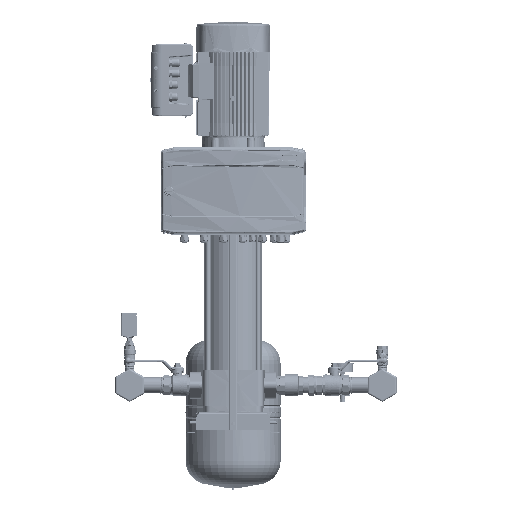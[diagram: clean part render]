
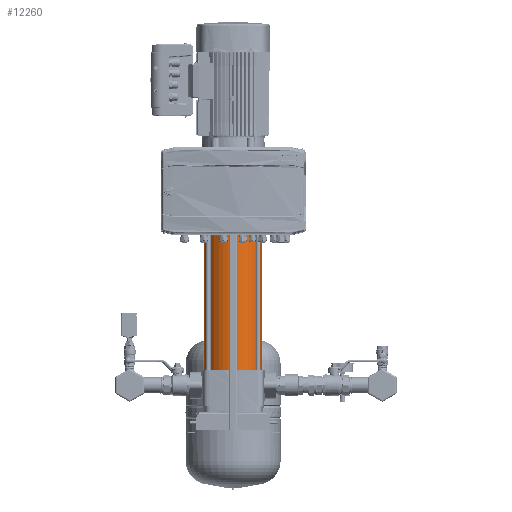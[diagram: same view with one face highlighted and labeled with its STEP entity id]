
A CAD part, left-side view. The second image highlights one B-rep face of the part: STEP entity #12260.
In plain terms, the highlighted cylindrical face has radius 85.35 mm (diameter 170.7 mm), a partial arc.
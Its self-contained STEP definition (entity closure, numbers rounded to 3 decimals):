
#12190=CARTESIAN_POINT('Axis2P3D Location',(434.,0.,0.)) ;
#12194=CARTESIAN_POINT('Vertex',(434.,-85.35,0.)) ;
#12196=CARTESIAN_POINT('Vertex',(434.,85.35,0.)) ;
#12217=CARTESIAN_POINT('Axis2P3D Location',(0.,0.,0.)) ;
#12222=CARTESIAN_POINT('Line Origine',(0.,-85.35,0.)) ;
#12226=CARTESIAN_POINT('Vertex',(0.,-85.35,0.)) ;
#12233=CARTESIAN_POINT('Vertex',(0.,85.35,0.)) ;
#12236=CARTESIAN_POINT('Line Origine',(0.,85.35,0.)) ;
#12249=CARTESIAN_POINT('Axis2P3D Location',(0.,0.,0.)) ;
#12224=VECTOR('Line Direction',#12223,1.) ;
#12238=VECTOR('Line Direction',#12237,1.) ;
#12191=DIRECTION('Axis2P3D Direction',(-1.,0.,0.)) ;
#12218=DIRECTION('Axis2P3D Direction',(1.,0.,0.)) ;
#12219=DIRECTION('Axis2P3D XDirection',(0.,-1.,0.)) ;
#12223=DIRECTION('Vector Direction',(1.,0.,0.)) ;
#12237=DIRECTION('Vector Direction',(1.,0.,0.)) ;
#12250=DIRECTION('Axis2P3D Direction',(1.,0.,0.)) ;
#12192=AXIS2_PLACEMENT_3D('Circle Axis2P3D',#12190,#12191,$) ;
#12220=AXIS2_PLACEMENT_3D('Cylinder Axis2P3D',#12217,#12218,#12219) ;
#12251=AXIS2_PLACEMENT_3D('Circle Axis2P3D',#12249,#12250,$) ;
#12225=LINE('Line',#12222,#12224) ;
#12239=LINE('Line',#12236,#12238) ;
#12193=CIRCLE('generated circle',#12192,85.35) ;
#12252=CIRCLE('generated circle',#12251,85.35) ;
#12221=CYLINDRICAL_SURFACE('generated cylinder',#12220,85.35) ;
#12198=EDGE_CURVE('',#12195,#12197,#12193,.T.) ;
#12228=EDGE_CURVE('',#12195,#12227,#12225,.F.) ;
#12240=EDGE_CURVE('',#12234,#12197,#12239,.T.) ;
#12253=EDGE_CURVE('',#12227,#12234,#12252,.F.) ;
#12255=ORIENTED_EDGE('',*,*,#12240,.F.) ;
#12256=ORIENTED_EDGE('',*,*,#12253,.F.) ;
#12257=ORIENTED_EDGE('',*,*,#12228,.F.) ;
#12258=ORIENTED_EDGE('',*,*,#12198,.T.) ;
#12254=EDGE_LOOP('',(#12255,#12256,#12257,#12258)) ;
#12195=VERTEX_POINT('',#12194) ;
#12197=VERTEX_POINT('',#12196) ;
#12227=VERTEX_POINT('',#12226) ;
#12234=VERTEX_POINT('',#12233) ;
#12260=ADVANCED_FACE('Solid1',(#12259),#12221,.T.) ;
#12259=FACE_OUTER_BOUND('',#12254,.T.) ;
